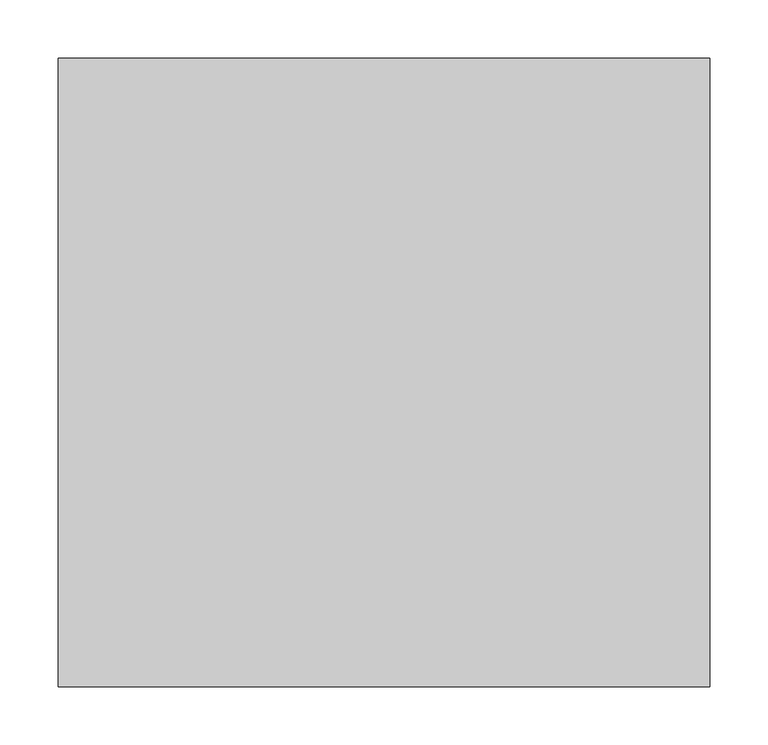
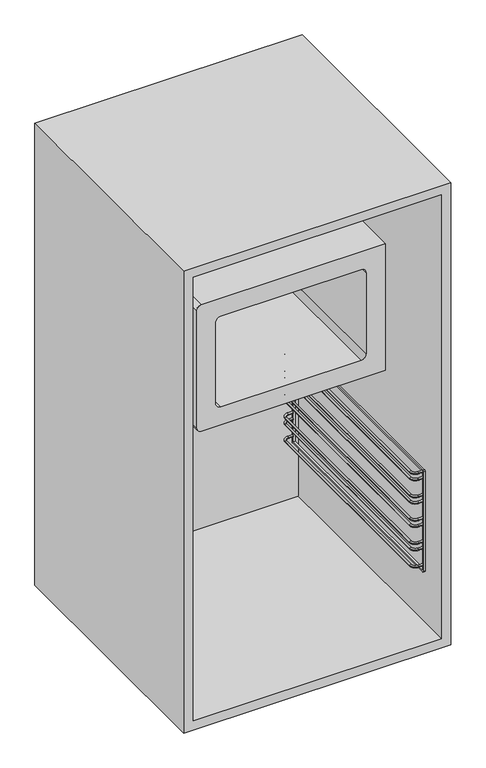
"""IFC4 building model written with IfcOpenShell, lengths in millimetres: proxy geometry, Horno_-_Microondas__Oven_-_Microwave_16796 : Horno_-_Microondas__Oven_-_Microwave_16796."""

from ifc_helpers import new_model, si_unit, point, frame, frame_2d, origin, place, context, project, spatial, polyline, circle_curve, ellipse_curve, trimmed, segment, composite_curve, outline, extrude, faceted_brep, source, transform, mapped, element, save
from ifc_brep_helpers import plane_surface, cylinder_surface, revolved_surface, advanced_brep


def specialty_equipment_980dbe76(model_context):
    return source(origin(), model_context, "Body", "SolidModel", [
        advanced_brep(
        [(236.0, 496.0039923, 175.9364959), (236.0, 500.0039923, 175.9364959), (217.9982631, 488.0039923, 175.9364959), (213.9982631, 488.0039923, 175.9364959), (213.9982631, 37.0604287, 175.9364959), (217.9982631, 37.0604287, 175.9364959), (236.0, 29.0604287, 175.9364959), (236.0, 25.0604287, 175.9364959), (225.9982631, 496.0039923, 175.9364959), (225.9982631, 500.0039923, 175.9364959), (225.9982631, 25.0604287, 175.9364959), (225.9982631, 29.0604287, 175.9364959)],
        [
            (0, 1, circle_curve(frame((236.0, 498.0039923, 175.9364959), z_axis=(1.0, 0.0, 0.0), x_axis=(0.0, 1.0, 0.0)), 2.0)),
            (1, 0, circle_curve(frame((236.0, 498.0039923, 175.9364959), z_axis=(1.0, 0.0, 0.0), x_axis=(0.0, 1.0, 0.0)), 2.0)),
            (2, 3, circle_curve(frame((215.9982631, 488.0039923, 175.9364959), z_axis=(0.0, -1.0, 0.0), x_axis=(-1.0, 0.0, 0.0)), 2.0)),
            (3, 4),
            (4, 5, circle_curve(frame((215.9982631, 37.0604287, 175.9364959), z_axis=(0.0, 1.0, 0.0), x_axis=(-1.0, 0.0, 0.0)), 2.0)),
            (5, 2),
            (3, 2, circle_curve(frame((215.9982631, 488.0039923, 175.9364959), z_axis=(0.0, -1.0, 0.0), x_axis=(-1.0, 0.0, 0.0)), 2.0)),
            (5, 4, circle_curve(frame((215.9982631, 37.0604287, 175.9364959), z_axis=(0.0, 1.0, 0.0), x_axis=(-1.0, 0.0, 0.0)), 2.0)),
            (6, 7, circle_curve(frame((236.0, 27.0604287, 175.9364959), z_axis=(1.0, 0.0, 0.0), x_axis=(0.0, -1.0, 0.0)), 2.0)),
            (7, 6, circle_curve(frame((236.0, 27.0604287, 175.9364959), z_axis=(1.0, 0.0, 0.0), x_axis=(0.0, -1.0, 0.0)), 2.0)),
            (0, 8),
            (8, 9, circle_curve(frame((225.9982631, 498.0039923, 175.9364959), z_axis=(1.0, 0.0, 0.0), x_axis=(0.0, 1.0, 0.0)), 2.0)),
            (9, 1),
            (9, 8, circle_curve(frame((225.9982631, 498.0039923, 175.9364959), z_axis=(1.0, 0.0, 0.0), x_axis=(0.0, 1.0, 0.0)), 2.0)),
            (3, 9, circle_curve(frame((225.9982631, 488.0039923, 175.9364959), z_axis=(0.0, 0.0, -1.0), x_axis=(0.0, 1.0, 0.0)), 12.0)),
            (8, 2, circle_curve(frame((225.9982631, 488.0039923, 175.9364959), z_axis=(0.0, 0.0, 1.0), x_axis=(0.0, 1.0, 0.0)), 8.0)),
            (10, 4, circle_curve(frame((225.9982631, 37.0604287, 175.9364959), z_axis=(0.0, 0.0, -1.0), x_axis=(-1.0, 0.0, 0.0)), 12.0)),
            (5, 11, circle_curve(frame((225.9982631, 37.0604287, 175.9364959), z_axis=(0.0, 0.0, 1.0), x_axis=(-1.0, 0.0, 0.0)), 8.0)),
            (11, 10, circle_curve(frame((225.9982631, 27.0604287, 175.9364959), z_axis=(-1.0, 0.0, 0.0), x_axis=(0.0, -1.0, 0.0)), 2.0)),
            (10, 11, circle_curve(frame((225.9982631, 27.0604287, 175.9364959), z_axis=(-1.0, 0.0, 0.0), x_axis=(0.0, -1.0, 0.0)), 2.0)),
            (11, 6),
            (7, 10),
        ],
        [
            plane_surface(frame((236.0, 498.0039923, 337.9364959), z_axis=(1.0, 0.0, 0.0), x_axis=(0.0, 0.0, 1.0))),
            cylinder_surface(frame((215.9982631, 488.0039923, 175.9364959), z_axis=(0.0, 1.0, 0.0), x_axis=(-1.0, 0.0, 0.0)), 2.0),
            plane_surface(frame((236.0, 27.0604287, 337.9364959), z_axis=(1.0, 0.0, 0.0), x_axis=(0.0, 0.0, 1.0))),
            cylinder_surface(frame((236.0, 498.0039923, 175.9364959), z_axis=(1.0, 0.0, 0.0), x_axis=(0.0, 1.0, 0.0)), 2.0),
            revolved_surface(trimmed(ellipse_curve(frame((225.9982631, 498.0039923, 175.9364959), z_axis=(1.0, 0.0, 0.0), x_axis=(0.0, 1.0, 0.0)), 2.0, 2.0), [point((225.9982631, 496.0039923, 175.9364959))], [point((225.9982631, 500.0039923, 175.9364959))], True, "CARTESIAN"), (225.9982631, 488.0039923, 337.9364959), (0.0, 0.0, 1.0)),
            revolved_surface(trimmed(ellipse_curve(frame((225.9982631, 498.0039923, 175.9364959), z_axis=(1.0, 0.0, 0.0), x_axis=(0.0, 1.0, 0.0)), 2.0, 2.0), [point((225.9982631, 500.0039923, 175.9364959))], [point((225.9982631, 496.0039923, 175.9364959))], True, "CARTESIAN"), (225.9982631, 488.0039923, 337.9364959), (0.0, 0.0, 1.0)),
            revolved_surface(trimmed(ellipse_curve(frame((215.9982631, 37.0604287, 175.9364959), z_axis=(0.0, 1.0, 0.0), x_axis=(-1.0, 0.0, 0.0)), 2.0, 2.0), [point((217.9982631, 37.0604287, 175.9364959))], [point((213.9982631, 37.0604287, 175.9364959))], True, "CARTESIAN"), (225.9982631, 37.0604287, 337.9364959), (0.0, 0.0, 1.0)),
            revolved_surface(trimmed(ellipse_curve(frame((215.9982631, 37.0604287, 175.9364959), z_axis=(0.0, 1.0, 0.0), x_axis=(-1.0, 0.0, 0.0)), 2.0, 2.0), [point((213.9982631, 37.0604287, 175.9364959))], [point((217.9982631, 37.0604287, 175.9364959))], True, "CARTESIAN"), (225.9982631, 37.0604287, 337.9364959), (0.0, 0.0, 1.0)),
            cylinder_surface(frame((225.9982631, 27.0604287, 175.9364959), z_axis=(-1.0, 0.0, 0.0), x_axis=(0.0, -1.0, 0.0)), 2.0),
        ],
        [
            (0, [[1, 2]]),
            (1, [[3, 4, 5, 6]]),
            (1, [[7, -6, 8, -4]]),
            (2, [[9, 10]]),
            (3, [[-1, 11, 12, 13]]),
            (3, [[-2, -13, 14, -11]]),
            (4, [[15, -12, 16, -7]]),
            (5, [[-16, -14, -15, -3]]),
            (6, [[17, -8, 18, 19]]),
            (7, [[-18, -5, -17, 20]]),
            (8, [[-19, 21, -10, 22]]),
            (8, [[-20, -22, -9, -21]]),
        ],
    ),
        advanced_brep(
        [(236.0, 496.0039923, 213.702372), (236.0, 500.0039923, 213.702372), (217.9982631, 488.0039923, 213.702372), (213.9982631, 488.0039923, 213.702372), (213.9982631, 37.0604287, 213.702372), (217.9982631, 37.0604287, 213.702372), (236.0, 29.0604287, 213.702372), (236.0, 25.0604287, 213.702372), (225.9982631, 496.0039923, 213.702372), (225.9982631, 500.0039923, 213.702372), (225.9982631, 25.0604287, 213.702372), (225.9982631, 29.0604287, 213.702372)],
        [
            (0, 1, circle_curve(frame((236.0, 498.0039923, 213.702372), z_axis=(1.0, 0.0, 0.0), x_axis=(0.0, 1.0, 0.0)), 2.0)),
            (1, 0, circle_curve(frame((236.0, 498.0039923, 213.702372), z_axis=(1.0, 0.0, 0.0), x_axis=(0.0, 1.0, 0.0)), 2.0)),
            (2, 3, circle_curve(frame((215.9982631, 488.0039923, 213.702372), z_axis=(0.0, -1.0, 0.0), x_axis=(-1.0, 0.0, 0.0)), 2.0)),
            (3, 4),
            (4, 5, circle_curve(frame((215.9982631, 37.0604287, 213.702372), z_axis=(0.0, 1.0, 0.0), x_axis=(-1.0, 0.0, 0.0)), 2.0)),
            (5, 2),
            (3, 2, circle_curve(frame((215.9982631, 488.0039923, 213.702372), z_axis=(0.0, -1.0, 0.0), x_axis=(-1.0, 0.0, 0.0)), 2.0)),
            (5, 4, circle_curve(frame((215.9982631, 37.0604287, 213.702372), z_axis=(0.0, 1.0, 0.0), x_axis=(-1.0, 0.0, 0.0)), 2.0)),
            (6, 7, circle_curve(frame((236.0, 27.0604287, 213.702372), z_axis=(1.0, 0.0, 0.0), x_axis=(0.0, -1.0, 0.0)), 2.0)),
            (7, 6, circle_curve(frame((236.0, 27.0604287, 213.702372), z_axis=(1.0, 0.0, 0.0), x_axis=(0.0, -1.0, 0.0)), 2.0)),
            (0, 8),
            (8, 9, circle_curve(frame((225.9982631, 498.0039923, 213.702372), z_axis=(1.0, 0.0, 0.0), x_axis=(0.0, 1.0, 0.0)), 2.0)),
            (9, 1),
            (9, 8, circle_curve(frame((225.9982631, 498.0039923, 213.702372), z_axis=(1.0, 0.0, 0.0), x_axis=(0.0, 1.0, 0.0)), 2.0)),
            (3, 9, circle_curve(frame((225.9982631, 488.0039923, 213.702372), z_axis=(0.0, 0.0, -1.0), x_axis=(0.0, 1.0, 0.0)), 12.0)),
            (8, 2, circle_curve(frame((225.9982631, 488.0039923, 213.702372), z_axis=(0.0, 0.0, 1.0), x_axis=(0.0, 1.0, 0.0)), 8.0)),
            (10, 4, circle_curve(frame((225.9982631, 37.0604287, 213.702372), z_axis=(0.0, 0.0, -1.0), x_axis=(-1.0, 0.0, 0.0)), 12.0)),
            (5, 11, circle_curve(frame((225.9982631, 37.0604287, 213.702372), z_axis=(0.0, 0.0, 1.0), x_axis=(-1.0, 0.0, 0.0)), 8.0)),
            (11, 10, circle_curve(frame((225.9982631, 27.0604287, 213.702372), z_axis=(-1.0, 0.0, 0.0), x_axis=(0.0, -1.0, 0.0)), 2.0)),
            (10, 11, circle_curve(frame((225.9982631, 27.0604287, 213.702372), z_axis=(-1.0, 0.0, 0.0), x_axis=(0.0, -1.0, 0.0)), 2.0)),
            (11, 6),
            (7, 10),
        ],
        [
            plane_surface(frame((236.0, 498.0039923, 375.702372), z_axis=(1.0, 0.0, 0.0), x_axis=(0.0, 0.0, 1.0))),
            cylinder_surface(frame((215.9982631, 488.0039923, 213.702372), z_axis=(0.0, 1.0, 0.0), x_axis=(-1.0, 0.0, 0.0)), 2.0),
            plane_surface(frame((236.0, 27.0604287, 375.702372), z_axis=(1.0, 0.0, 0.0), x_axis=(0.0, 0.0, 1.0))),
            cylinder_surface(frame((236.0, 498.0039923, 213.702372), z_axis=(1.0, 0.0, 0.0), x_axis=(0.0, 1.0, 0.0)), 2.0),
            revolved_surface(trimmed(ellipse_curve(frame((225.9982631, 498.0039923, 213.702372), z_axis=(1.0, 0.0, 0.0), x_axis=(0.0, 1.0, 0.0)), 2.0, 2.0), [point((225.9982631, 496.0039923, 213.702372))], [point((225.9982631, 500.0039923, 213.702372))], True, "CARTESIAN"), (225.9982631, 488.0039923, 375.702372), (0.0, 0.0, 1.0)),
            revolved_surface(trimmed(ellipse_curve(frame((225.9982631, 498.0039923, 213.702372), z_axis=(1.0, 0.0, 0.0), x_axis=(0.0, 1.0, 0.0)), 2.0, 2.0), [point((225.9982631, 500.0039923, 213.702372))], [point((225.9982631, 496.0039923, 213.702372))], True, "CARTESIAN"), (225.9982631, 488.0039923, 375.702372), (0.0, 0.0, 1.0)),
            revolved_surface(trimmed(ellipse_curve(frame((215.9982631, 37.0604287, 213.702372), z_axis=(0.0, 1.0, 0.0), x_axis=(-1.0, 0.0, 0.0)), 2.0, 2.0), [point((217.9982631, 37.0604287, 213.702372))], [point((213.9982631, 37.0604287, 213.702372))], True, "CARTESIAN"), (225.9982631, 37.0604287, 375.702372), (0.0, 0.0, 1.0)),
            revolved_surface(trimmed(ellipse_curve(frame((215.9982631, 37.0604287, 213.702372), z_axis=(0.0, 1.0, 0.0), x_axis=(-1.0, 0.0, 0.0)), 2.0, 2.0), [point((213.9982631, 37.0604287, 213.702372))], [point((217.9982631, 37.0604287, 213.702372))], True, "CARTESIAN"), (225.9982631, 37.0604287, 375.702372), (0.0, 0.0, 1.0)),
            cylinder_surface(frame((225.9982631, 27.0604287, 213.702372), z_axis=(-1.0, 0.0, 0.0), x_axis=(0.0, -1.0, 0.0)), 2.0),
        ],
        [
            (0, [[1, 2]]),
            (1, [[3, 4, 5, 6]]),
            (1, [[7, -6, 8, -4]]),
            (2, [[9, 10]]),
            (3, [[-1, 11, 12, 13]]),
            (3, [[-2, -13, 14, -11]]),
            (4, [[15, -12, 16, -7]]),
            (5, [[-16, -14, -15, -3]]),
            (6, [[17, -8, 18, 19]]),
            (7, [[-18, -5, -17, 20]]),
            (8, [[-19, 21, -10, 22]]),
            (8, [[-20, -22, -9, -21]]),
        ],
    ),
        advanced_brep(
        [(236.0, 496.0039923, 227.702372), (236.0, 500.0039923, 227.702372), (217.9982631, 488.0039923, 227.702372), (213.9982631, 488.0039923, 227.702372), (213.9982631, 37.0604287, 227.702372), (217.9982631, 37.0604287, 227.702372), (236.0, 29.0604287, 227.702372), (236.0, 25.0604287, 227.702372), (225.9982631, 496.0039923, 227.702372), (225.9982631, 500.0039923, 227.702372), (225.9982631, 25.0604287, 227.702372), (225.9982631, 29.0604287, 227.702372)],
        [
            (0, 1, circle_curve(frame((236.0, 498.0039923, 227.702372), z_axis=(1.0, 0.0, 0.0), x_axis=(0.0, 1.0, 0.0)), 2.0)),
            (1, 0, circle_curve(frame((236.0, 498.0039923, 227.702372), z_axis=(1.0, 0.0, 0.0), x_axis=(0.0, 1.0, 0.0)), 2.0)),
            (2, 3, circle_curve(frame((215.9982631, 488.0039923, 227.702372), z_axis=(0.0, -1.0, 0.0), x_axis=(-1.0, 0.0, 0.0)), 2.0)),
            (3, 4),
            (4, 5, circle_curve(frame((215.9982631, 37.0604287, 227.702372), z_axis=(0.0, 1.0, 0.0), x_axis=(-1.0, 0.0, 0.0)), 2.0)),
            (5, 2),
            (3, 2, circle_curve(frame((215.9982631, 488.0039923, 227.702372), z_axis=(0.0, -1.0, 0.0), x_axis=(-1.0, 0.0, 0.0)), 2.0)),
            (5, 4, circle_curve(frame((215.9982631, 37.0604287, 227.702372), z_axis=(0.0, 1.0, 0.0), x_axis=(-1.0, 0.0, 0.0)), 2.0)),
            (6, 7, circle_curve(frame((236.0, 27.0604287, 227.702372), z_axis=(1.0, 0.0, 0.0), x_axis=(0.0, -1.0, 0.0)), 2.0)),
            (7, 6, circle_curve(frame((236.0, 27.0604287, 227.702372), z_axis=(1.0, 0.0, 0.0), x_axis=(0.0, -1.0, 0.0)), 2.0)),
            (0, 8),
            (8, 9, circle_curve(frame((225.9982631, 498.0039923, 227.702372), z_axis=(1.0, 0.0, 0.0), x_axis=(0.0, 1.0, 0.0)), 2.0)),
            (9, 1),
            (9, 8, circle_curve(frame((225.9982631, 498.0039923, 227.702372), z_axis=(1.0, 0.0, 0.0), x_axis=(0.0, 1.0, 0.0)), 2.0)),
            (3, 9, circle_curve(frame((225.9982631, 488.0039923, 227.702372), z_axis=(0.0, 0.0, -1.0), x_axis=(0.0, 1.0, 0.0)), 12.0)),
            (8, 2, circle_curve(frame((225.9982631, 488.0039923, 227.702372), z_axis=(0.0, 0.0, 1.0), x_axis=(0.0, 1.0, 0.0)), 8.0)),
            (10, 4, circle_curve(frame((225.9982631, 37.0604287, 227.702372), z_axis=(0.0, 0.0, -1.0), x_axis=(-1.0, 0.0, 0.0)), 12.0)),
            (5, 11, circle_curve(frame((225.9982631, 37.0604287, 227.702372), z_axis=(0.0, 0.0, 1.0), x_axis=(-1.0, 0.0, 0.0)), 8.0)),
            (11, 10, circle_curve(frame((225.9982631, 27.0604287, 227.702372), z_axis=(-1.0, 0.0, 0.0), x_axis=(0.0, -1.0, 0.0)), 2.0)),
            (10, 11, circle_curve(frame((225.9982631, 27.0604287, 227.702372), z_axis=(-1.0, 0.0, 0.0), x_axis=(0.0, -1.0, 0.0)), 2.0)),
            (11, 6),
            (7, 10),
        ],
        [
            plane_surface(frame((236.0, 498.0039923, 389.702372), z_axis=(1.0, 0.0, 0.0), x_axis=(0.0, 0.0, 1.0))),
            cylinder_surface(frame((215.9982631, 488.0039923, 227.702372), z_axis=(0.0, 1.0, 0.0), x_axis=(-1.0, 0.0, 0.0)), 2.0),
            plane_surface(frame((236.0, 27.0604287, 389.702372), z_axis=(1.0, 0.0, 0.0), x_axis=(0.0, 0.0, 1.0))),
            cylinder_surface(frame((236.0, 498.0039923, 227.702372), z_axis=(1.0, 0.0, 0.0), x_axis=(0.0, 1.0, 0.0)), 2.0),
            revolved_surface(trimmed(ellipse_curve(frame((225.9982631, 498.0039923, 227.702372), z_axis=(1.0, 0.0, 0.0), x_axis=(0.0, 1.0, 0.0)), 2.0, 2.0), [point((225.9982631, 496.0039923, 227.702372))], [point((225.9982631, 500.0039923, 227.702372))], True, "CARTESIAN"), (225.9982631, 488.0039923, 389.702372), (0.0, 0.0, 1.0)),
            revolved_surface(trimmed(ellipse_curve(frame((225.9982631, 498.0039923, 227.702372), z_axis=(1.0, 0.0, 0.0), x_axis=(0.0, 1.0, 0.0)), 2.0, 2.0), [point((225.9982631, 500.0039923, 227.702372))], [point((225.9982631, 496.0039923, 227.702372))], True, "CARTESIAN"), (225.9982631, 488.0039923, 389.702372), (0.0, 0.0, 1.0)),
            revolved_surface(trimmed(ellipse_curve(frame((215.9982631, 37.0604287, 227.702372), z_axis=(0.0, 1.0, 0.0), x_axis=(-1.0, 0.0, 0.0)), 2.0, 2.0), [point((217.9982631, 37.0604287, 227.702372))], [point((213.9982631, 37.0604287, 227.702372))], True, "CARTESIAN"), (225.9982631, 37.0604287, 389.702372), (0.0, 0.0, 1.0)),
            revolved_surface(trimmed(ellipse_curve(frame((215.9982631, 37.0604287, 227.702372), z_axis=(0.0, 1.0, 0.0), x_axis=(-1.0, 0.0, 0.0)), 2.0, 2.0), [point((213.9982631, 37.0604287, 227.702372))], [point((217.9982631, 37.0604287, 227.702372))], True, "CARTESIAN"), (225.9982631, 37.0604287, 389.702372), (0.0, 0.0, 1.0)),
            cylinder_surface(frame((225.9982631, 27.0604287, 227.702372), z_axis=(-1.0, 0.0, 0.0), x_axis=(0.0, -1.0, 0.0)), 2.0),
        ],
        [
            (0, [[1, 2]]),
            (1, [[3, 4, 5, 6]]),
            (1, [[7, -6, 8, -4]]),
            (2, [[9, 10]]),
            (3, [[-1, 11, 12, 13]]),
            (3, [[-2, -13, 14, -11]]),
            (4, [[15, -12, 16, -7]]),
            (5, [[-16, -14, -15, -3]]),
            (6, [[17, -8, 18, 19]]),
            (7, [[-18, -5, -17, 20]]),
            (8, [[-19, 21, -10, 22]]),
            (8, [[-20, -22, -9, -21]]),
        ],
    ),
        advanced_brep(
        [(236.0, 496.0039923, 265.468248), (236.0, 500.0039923, 265.468248), (217.9982631, 488.0039923, 265.468248), (213.9982631, 488.0039923, 265.468248), (213.9982631, 37.0604287, 265.468248), (217.9982631, 37.0604287, 265.468248), (236.0, 29.0604287, 265.468248), (236.0, 25.0604287, 265.468248), (225.9982631, 496.0039923, 265.468248), (225.9982631, 500.0039923, 265.468248), (225.9982631, 25.0604287, 265.468248), (225.9982631, 29.0604287, 265.468248)],
        [
            (0, 1, circle_curve(frame((236.0, 498.0039923, 265.468248), z_axis=(1.0, 0.0, 0.0), x_axis=(0.0, 1.0, 0.0)), 2.0)),
            (1, 0, circle_curve(frame((236.0, 498.0039923, 265.468248), z_axis=(1.0, 0.0, 0.0), x_axis=(0.0, 1.0, 0.0)), 2.0)),
            (2, 3, circle_curve(frame((215.9982631, 488.0039923, 265.468248), z_axis=(0.0, -1.0, 0.0), x_axis=(-1.0, 0.0, 0.0)), 2.0)),
            (3, 4),
            (4, 5, circle_curve(frame((215.9982631, 37.0604287, 265.468248), z_axis=(0.0, 1.0, 0.0), x_axis=(-1.0, 0.0, 0.0)), 2.0)),
            (5, 2),
            (3, 2, circle_curve(frame((215.9982631, 488.0039923, 265.468248), z_axis=(0.0, -1.0, 0.0), x_axis=(-1.0, 0.0, 0.0)), 2.0)),
            (5, 4, circle_curve(frame((215.9982631, 37.0604287, 265.468248), z_axis=(0.0, 1.0, 0.0), x_axis=(-1.0, 0.0, 0.0)), 2.0)),
            (6, 7, circle_curve(frame((236.0, 27.0604287, 265.468248), z_axis=(1.0, 0.0, 0.0), x_axis=(0.0, -1.0, 0.0)), 2.0)),
            (7, 6, circle_curve(frame((236.0, 27.0604287, 265.468248), z_axis=(1.0, 0.0, 0.0), x_axis=(0.0, -1.0, 0.0)), 2.0)),
            (0, 8),
            (8, 9, circle_curve(frame((225.9982631, 498.0039923, 265.468248), z_axis=(1.0, 0.0, 0.0), x_axis=(0.0, 1.0, 0.0)), 2.0)),
            (9, 1),
            (9, 8, circle_curve(frame((225.9982631, 498.0039923, 265.468248), z_axis=(1.0, 0.0, 0.0), x_axis=(0.0, 1.0, 0.0)), 2.0)),
            (3, 9, circle_curve(frame((225.9982631, 488.0039923, 265.468248), z_axis=(0.0, 0.0, -1.0), x_axis=(0.0, 1.0, 0.0)), 12.0)),
            (8, 2, circle_curve(frame((225.9982631, 488.0039923, 265.468248), z_axis=(0.0, 0.0, 1.0), x_axis=(0.0, 1.0, 0.0)), 8.0)),
            (10, 4, circle_curve(frame((225.9982631, 37.0604287, 265.468248), z_axis=(0.0, 0.0, -1.0), x_axis=(-1.0, 0.0, 0.0)), 12.0)),
            (5, 11, circle_curve(frame((225.9982631, 37.0604287, 265.468248), z_axis=(0.0, 0.0, 1.0), x_axis=(-1.0, 0.0, 0.0)), 8.0)),
            (11, 10, circle_curve(frame((225.9982631, 27.0604287, 265.468248), z_axis=(-1.0, 0.0, 0.0), x_axis=(0.0, -1.0, 0.0)), 2.0)),
            (10, 11, circle_curve(frame((225.9982631, 27.0604287, 265.468248), z_axis=(-1.0, 0.0, 0.0), x_axis=(0.0, -1.0, 0.0)), 2.0)),
            (11, 6),
            (7, 10),
        ],
        [
            plane_surface(frame((236.0, 498.0039923, 427.468248), z_axis=(1.0, 0.0, 0.0), x_axis=(0.0, 0.0, 1.0))),
            cylinder_surface(frame((215.9982631, 488.0039923, 265.468248), z_axis=(0.0, 1.0, 0.0), x_axis=(-1.0, 0.0, 0.0)), 2.0),
            plane_surface(frame((236.0, 27.0604287, 427.468248), z_axis=(1.0, 0.0, 0.0), x_axis=(0.0, 0.0, 1.0))),
            cylinder_surface(frame((236.0, 498.0039923, 265.468248), z_axis=(1.0, 0.0, 0.0), x_axis=(0.0, 1.0, 0.0)), 2.0),
            revolved_surface(trimmed(ellipse_curve(frame((225.9982631, 498.0039923, 265.468248), z_axis=(1.0, 0.0, 0.0), x_axis=(0.0, 1.0, 0.0)), 2.0, 2.0), [point((225.9982631, 496.0039923, 265.468248))], [point((225.9982631, 500.0039923, 265.468248))], True, "CARTESIAN"), (225.9982631, 488.0039923, 427.468248), (0.0, 0.0, 1.0)),
            revolved_surface(trimmed(ellipse_curve(frame((225.9982631, 498.0039923, 265.468248), z_axis=(1.0, 0.0, 0.0), x_axis=(0.0, 1.0, 0.0)), 2.0, 2.0), [point((225.9982631, 500.0039923, 265.468248))], [point((225.9982631, 496.0039923, 265.468248))], True, "CARTESIAN"), (225.9982631, 488.0039923, 427.468248), (0.0, 0.0, 1.0)),
            revolved_surface(trimmed(ellipse_curve(frame((215.9982631, 37.0604287, 265.468248), z_axis=(0.0, 1.0, 0.0), x_axis=(-1.0, 0.0, 0.0)), 2.0, 2.0), [point((217.9982631, 37.0604287, 265.468248))], [point((213.9982631, 37.0604287, 265.468248))], True, "CARTESIAN"), (225.9982631, 37.0604287, 427.468248), (0.0, 0.0, 1.0)),
            revolved_surface(trimmed(ellipse_curve(frame((215.9982631, 37.0604287, 265.468248), z_axis=(0.0, 1.0, 0.0), x_axis=(-1.0, 0.0, 0.0)), 2.0, 2.0), [point((213.9982631, 37.0604287, 265.468248))], [point((217.9982631, 37.0604287, 265.468248))], True, "CARTESIAN"), (225.9982631, 37.0604287, 427.468248), (0.0, 0.0, 1.0)),
            cylinder_surface(frame((225.9982631, 27.0604287, 265.468248), z_axis=(-1.0, 0.0, 0.0), x_axis=(0.0, -1.0, 0.0)), 2.0),
        ],
        [
            (0, [[1, 2]]),
            (1, [[3, 4, 5, 6]]),
            (1, [[7, -6, 8, -4]]),
            (2, [[9, 10]]),
            (3, [[-1, 11, 12, 13]]),
            (3, [[-2, -13, 14, -11]]),
            (4, [[15, -12, 16, -7]]),
            (5, [[-16, -14, -15, -3]]),
            (6, [[17, -8, 18, 19]]),
            (7, [[-18, -5, -17, 20]]),
            (8, [[-19, 21, -10, 22]]),
            (8, [[-20, -22, -9, -21]]),
        ],
    ),
        advanced_brep(
        [(236.0, 496.0039923, 279.468248), (236.0, 500.0039923, 279.468248), (217.9982631, 488.0039923, 279.468248), (213.9982631, 488.0039923, 279.468248), (213.9982631, 37.0604287, 279.468248), (217.9982631, 37.0604287, 279.468248), (236.0, 29.0604287, 279.468248), (236.0, 25.0604287, 279.468248), (225.9982631, 496.0039923, 279.468248), (225.9982631, 500.0039923, 279.468248), (225.9982631, 25.0604287, 279.468248), (225.9982631, 29.0604287, 279.468248)],
        [
            (0, 1, circle_curve(frame((236.0, 498.0039923, 279.468248), z_axis=(1.0, 0.0, 0.0), x_axis=(0.0, 1.0, 0.0)), 2.0)),
            (1, 0, circle_curve(frame((236.0, 498.0039923, 279.468248), z_axis=(1.0, 0.0, 0.0), x_axis=(0.0, 1.0, 0.0)), 2.0)),
            (2, 3, circle_curve(frame((215.9982631, 488.0039923, 279.468248), z_axis=(0.0, -1.0, 0.0), x_axis=(-1.0, 0.0, 0.0)), 2.0)),
            (3, 4),
            (4, 5, circle_curve(frame((215.9982631, 37.0604287, 279.468248), z_axis=(0.0, 1.0, 0.0), x_axis=(-1.0, 0.0, 0.0)), 2.0)),
            (5, 2),
            (3, 2, circle_curve(frame((215.9982631, 488.0039923, 279.468248), z_axis=(0.0, -1.0, 0.0), x_axis=(-1.0, 0.0, 0.0)), 2.0)),
            (5, 4, circle_curve(frame((215.9982631, 37.0604287, 279.468248), z_axis=(0.0, 1.0, 0.0), x_axis=(-1.0, 0.0, 0.0)), 2.0)),
            (6, 7, circle_curve(frame((236.0, 27.0604287, 279.468248), z_axis=(1.0, 0.0, 0.0), x_axis=(0.0, -1.0, 0.0)), 2.0)),
            (7, 6, circle_curve(frame((236.0, 27.0604287, 279.468248), z_axis=(1.0, 0.0, 0.0), x_axis=(0.0, -1.0, 0.0)), 2.0)),
            (0, 8),
            (8, 9, circle_curve(frame((225.9982631, 498.0039923, 279.468248), z_axis=(1.0, 0.0, 0.0), x_axis=(0.0, 1.0, 0.0)), 2.0)),
            (9, 1),
            (9, 8, circle_curve(frame((225.9982631, 498.0039923, 279.468248), z_axis=(1.0, 0.0, 0.0), x_axis=(0.0, 1.0, 0.0)), 2.0)),
            (3, 9, circle_curve(frame((225.9982631, 488.0039923, 279.468248), z_axis=(0.0, 0.0, -1.0), x_axis=(0.0, 1.0, 0.0)), 12.0)),
            (8, 2, circle_curve(frame((225.9982631, 488.0039923, 279.468248), z_axis=(0.0, 0.0, 1.0), x_axis=(0.0, 1.0, 0.0)), 8.0)),
            (10, 4, circle_curve(frame((225.9982631, 37.0604287, 279.468248), z_axis=(0.0, 0.0, -1.0), x_axis=(-1.0, 0.0, 0.0)), 12.0)),
            (5, 11, circle_curve(frame((225.9982631, 37.0604287, 279.468248), z_axis=(0.0, 0.0, 1.0), x_axis=(-1.0, 0.0, 0.0)), 8.0)),
            (11, 10, circle_curve(frame((225.9982631, 27.0604287, 279.468248), z_axis=(-1.0, 0.0, 0.0), x_axis=(0.0, -1.0, 0.0)), 2.0)),
            (10, 11, circle_curve(frame((225.9982631, 27.0604287, 279.468248), z_axis=(-1.0, 0.0, 0.0), x_axis=(0.0, -1.0, 0.0)), 2.0)),
            (11, 6),
            (7, 10),
        ],
        [
            plane_surface(frame((236.0, 498.0039923, 441.468248), z_axis=(1.0, 0.0, 0.0), x_axis=(0.0, 0.0, 1.0))),
            cylinder_surface(frame((215.9982631, 488.0039923, 279.468248), z_axis=(0.0, 1.0, 0.0), x_axis=(-1.0, 0.0, 0.0)), 2.0),
            plane_surface(frame((236.0, 27.0604287, 441.468248), z_axis=(1.0, 0.0, 0.0), x_axis=(0.0, 0.0, 1.0))),
            cylinder_surface(frame((236.0, 498.0039923, 279.468248), z_axis=(1.0, 0.0, 0.0), x_axis=(0.0, 1.0, 0.0)), 2.0),
            revolved_surface(trimmed(ellipse_curve(frame((225.9982631, 498.0039923, 279.468248), z_axis=(1.0, 0.0, 0.0), x_axis=(0.0, 1.0, 0.0)), 2.0, 2.0), [point((225.9982631, 496.0039923, 279.468248))], [point((225.9982631, 500.0039923, 279.468248))], True, "CARTESIAN"), (225.9982631, 488.0039923, 441.468248), (0.0, 0.0, 1.0)),
            revolved_surface(trimmed(ellipse_curve(frame((225.9982631, 498.0039923, 279.468248), z_axis=(1.0, 0.0, 0.0), x_axis=(0.0, 1.0, 0.0)), 2.0, 2.0), [point((225.9982631, 500.0039923, 279.468248))], [point((225.9982631, 496.0039923, 279.468248))], True, "CARTESIAN"), (225.9982631, 488.0039923, 441.468248), (0.0, 0.0, 1.0)),
            revolved_surface(trimmed(ellipse_curve(frame((215.9982631, 37.0604287, 279.468248), z_axis=(0.0, 1.0, 0.0), x_axis=(-1.0, 0.0, 0.0)), 2.0, 2.0), [point((217.9982631, 37.0604287, 279.468248))], [point((213.9982631, 37.0604287, 279.468248))], True, "CARTESIAN"), (225.9982631, 37.0604287, 441.468248), (0.0, 0.0, 1.0)),
            revolved_surface(trimmed(ellipse_curve(frame((215.9982631, 37.0604287, 279.468248), z_axis=(0.0, 1.0, 0.0), x_axis=(-1.0, 0.0, 0.0)), 2.0, 2.0), [point((213.9982631, 37.0604287, 279.468248))], [point((217.9982631, 37.0604287, 279.468248))], True, "CARTESIAN"), (225.9982631, 37.0604287, 441.468248), (0.0, 0.0, 1.0)),
            cylinder_surface(frame((225.9982631, 27.0604287, 279.468248), z_axis=(-1.0, 0.0, 0.0), x_axis=(0.0, -1.0, 0.0)), 2.0),
        ],
        [
            (0, [[1, 2]]),
            (1, [[3, 4, 5, 6]]),
            (1, [[7, -6, 8, -4]]),
            (2, [[9, 10]]),
            (3, [[-1, 11, 12, 13]]),
            (3, [[-2, -13, 14, -11]]),
            (4, [[15, -12, 16, -7]]),
            (5, [[-16, -14, -15, -3]]),
            (6, [[17, -8, 18, 19]]),
            (7, [[-18, -5, -17, 20]]),
            (8, [[-19, 21, -10, 22]]),
            (8, [[-20, -22, -9, -21]]),
        ],
    ),
        advanced_brep(
        [(236.0, 496.0039923, 317.234124), (236.0, 500.0039923, 317.234124), (217.9982631, 488.0039923, 317.234124), (213.9982631, 488.0039923, 317.234124), (213.9982631, 37.0604287, 317.234124), (217.9982631, 37.0604287, 317.234124), (236.0, 29.0604287, 317.234124), (236.0, 25.0604287, 317.234124), (225.9982631, 496.0039923, 317.234124), (225.9982631, 500.0039923, 317.234124), (225.9982631, 25.0604287, 317.234124), (225.9982631, 29.0604287, 317.234124)],
        [
            (0, 1, circle_curve(frame((236.0, 498.0039923, 317.234124), z_axis=(1.0, 0.0, 0.0), x_axis=(0.0, 1.0, 0.0)), 2.0)),
            (1, 0, circle_curve(frame((236.0, 498.0039923, 317.234124), z_axis=(1.0, 0.0, 0.0), x_axis=(0.0, 1.0, 0.0)), 2.0)),
            (2, 3, circle_curve(frame((215.9982631, 488.0039923, 317.234124), z_axis=(0.0, -1.0, 0.0), x_axis=(-1.0, 0.0, 0.0)), 2.0)),
            (3, 4),
            (4, 5, circle_curve(frame((215.9982631, 37.0604287, 317.234124), z_axis=(0.0, 1.0, 0.0), x_axis=(-1.0, 0.0, 0.0)), 2.0)),
            (5, 2),
            (3, 2, circle_curve(frame((215.9982631, 488.0039923, 317.234124), z_axis=(0.0, -1.0, 0.0), x_axis=(-1.0, 0.0, 0.0)), 2.0)),
            (5, 4, circle_curve(frame((215.9982631, 37.0604287, 317.234124), z_axis=(0.0, 1.0, 0.0), x_axis=(-1.0, 0.0, 0.0)), 2.0)),
            (6, 7, circle_curve(frame((236.0, 27.0604287, 317.234124), z_axis=(1.0, 0.0, 0.0), x_axis=(0.0, -1.0, 0.0)), 2.0)),
            (7, 6, circle_curve(frame((236.0, 27.0604287, 317.234124), z_axis=(1.0, 0.0, 0.0), x_axis=(0.0, -1.0, 0.0)), 2.0)),
            (0, 8),
            (8, 9, circle_curve(frame((225.9982631, 498.0039923, 317.234124), z_axis=(1.0, 0.0, 0.0), x_axis=(0.0, 1.0, 0.0)), 2.0)),
            (9, 1),
            (9, 8, circle_curve(frame((225.9982631, 498.0039923, 317.234124), z_axis=(1.0, 0.0, 0.0), x_axis=(0.0, 1.0, 0.0)), 2.0)),
            (3, 9, circle_curve(frame((225.9982631, 488.0039923, 317.234124), z_axis=(0.0, 0.0, -1.0), x_axis=(0.0, 1.0, 0.0)), 12.0)),
            (8, 2, circle_curve(frame((225.9982631, 488.0039923, 317.234124), z_axis=(0.0, 0.0, 1.0), x_axis=(0.0, 1.0, 0.0)), 8.0)),
            (10, 4, circle_curve(frame((225.9982631, 37.0604287, 317.234124), z_axis=(0.0, 0.0, -1.0), x_axis=(-1.0, 0.0, 0.0)), 12.0)),
            (5, 11, circle_curve(frame((225.9982631, 37.0604287, 317.234124), z_axis=(0.0, 0.0, 1.0), x_axis=(-1.0, 0.0, 0.0)), 8.0)),
            (11, 10, circle_curve(frame((225.9982631, 27.0604287, 317.234124), z_axis=(-1.0, 0.0, 0.0), x_axis=(0.0, -1.0, 0.0)), 2.0)),
            (10, 11, circle_curve(frame((225.9982631, 27.0604287, 317.234124), z_axis=(-1.0, 0.0, 0.0), x_axis=(0.0, -1.0, 0.0)), 2.0)),
            (11, 6),
            (7, 10),
        ],
        [
            plane_surface(frame((236.0, 498.0039923, 479.234124), z_axis=(1.0, 0.0, 0.0), x_axis=(0.0, 0.0, 1.0))),
            cylinder_surface(frame((215.9982631, 488.0039923, 317.234124), z_axis=(0.0, 1.0, 0.0), x_axis=(-1.0, 0.0, 0.0)), 2.0),
            plane_surface(frame((236.0, 27.0604287, 479.234124), z_axis=(1.0, 0.0, 0.0), x_axis=(0.0, 0.0, 1.0))),
            cylinder_surface(frame((236.0, 498.0039923, 317.234124), z_axis=(1.0, 0.0, 0.0), x_axis=(0.0, 1.0, 0.0)), 2.0),
            revolved_surface(trimmed(ellipse_curve(frame((225.9982631, 498.0039923, 317.234124), z_axis=(1.0, 0.0, 0.0), x_axis=(0.0, 1.0, 0.0)), 2.0, 2.0), [point((225.9982631, 496.0039923, 317.234124))], [point((225.9982631, 500.0039923, 317.234124))], True, "CARTESIAN"), (225.9982631, 488.0039923, 479.234124), (0.0, 0.0, 1.0)),
            revolved_surface(trimmed(ellipse_curve(frame((225.9982631, 498.0039923, 317.234124), z_axis=(1.0, 0.0, 0.0), x_axis=(0.0, 1.0, 0.0)), 2.0, 2.0), [point((225.9982631, 500.0039923, 317.234124))], [point((225.9982631, 496.0039923, 317.234124))], True, "CARTESIAN"), (225.9982631, 488.0039923, 479.234124), (0.0, 0.0, 1.0)),
            revolved_surface(trimmed(ellipse_curve(frame((215.9982631, 37.0604287, 317.234124), z_axis=(0.0, 1.0, 0.0), x_axis=(-1.0, 0.0, 0.0)), 2.0, 2.0), [point((217.9982631, 37.0604287, 317.234124))], [point((213.9982631, 37.0604287, 317.234124))], True, "CARTESIAN"), (225.9982631, 37.0604287, 479.234124), (0.0, 0.0, 1.0)),
            revolved_surface(trimmed(ellipse_curve(frame((215.9982631, 37.0604287, 317.234124), z_axis=(0.0, 1.0, 0.0), x_axis=(-1.0, 0.0, 0.0)), 2.0, 2.0), [point((213.9982631, 37.0604287, 317.234124))], [point((217.9982631, 37.0604287, 317.234124))], True, "CARTESIAN"), (225.9982631, 37.0604287, 479.234124), (0.0, 0.0, 1.0)),
            cylinder_surface(frame((225.9982631, 27.0604287, 317.234124), z_axis=(-1.0, 0.0, 0.0), x_axis=(0.0, -1.0, 0.0)), 2.0),
        ],
        [
            (0, [[1, 2]]),
            (1, [[3, 4, 5, 6]]),
            (1, [[7, -6, 8, -4]]),
            (2, [[9, 10]]),
            (3, [[-1, 11, 12, 13]]),
            (3, [[-2, -13, 14, -11]]),
            (4, [[15, -12, 16, -7]]),
            (5, [[-16, -14, -15, -3]]),
            (6, [[17, -8, 18, 19]]),
            (7, [[-18, -5, -17, 20]]),
            (8, [[-19, 21, -10, 22]]),
            (8, [[-20, -22, -9, -21]]),
        ],
    ),
        advanced_brep(
        [(236.0, 496.0039923, 331.234124), (236.0, 500.0039923, 331.234124), (217.9982631, 488.0039923, 331.234124), (213.9982631, 488.0039923, 331.234124), (213.9982631, 37.0604287, 331.234124), (217.9982631, 37.0604287, 331.234124), (236.0, 29.0604287, 331.234124), (236.0, 25.0604287, 331.234124), (225.9982631, 496.0039923, 331.234124), (225.9982631, 500.0039923, 331.234124), (225.9982631, 25.0604287, 331.234124), (225.9982631, 29.0604287, 331.234124)],
        [
            (0, 1, circle_curve(frame((236.0, 498.0039923, 331.234124), z_axis=(1.0, 0.0, 0.0), x_axis=(0.0, 1.0, 0.0)), 2.0)),
            (1, 0, circle_curve(frame((236.0, 498.0039923, 331.234124), z_axis=(1.0, 0.0, 0.0), x_axis=(0.0, 1.0, 0.0)), 2.0)),
            (2, 3, circle_curve(frame((215.9982631, 488.0039923, 331.234124), z_axis=(0.0, -1.0, 0.0), x_axis=(-1.0, 0.0, 0.0)), 2.0)),
            (3, 4),
            (4, 5, circle_curve(frame((215.9982631, 37.0604287, 331.234124), z_axis=(0.0, 1.0, 0.0), x_axis=(-1.0, 0.0, 0.0)), 2.0)),
            (5, 2),
            (3, 2, circle_curve(frame((215.9982631, 488.0039923, 331.234124), z_axis=(0.0, -1.0, 0.0), x_axis=(-1.0, 0.0, 0.0)), 2.0)),
            (5, 4, circle_curve(frame((215.9982631, 37.0604287, 331.234124), z_axis=(0.0, 1.0, 0.0), x_axis=(-1.0, 0.0, 0.0)), 2.0)),
            (6, 7, circle_curve(frame((236.0, 27.0604287, 331.234124), z_axis=(1.0, 0.0, 0.0), x_axis=(0.0, -1.0, 0.0)), 2.0)),
            (7, 6, circle_curve(frame((236.0, 27.0604287, 331.234124), z_axis=(1.0, 0.0, 0.0), x_axis=(0.0, -1.0, 0.0)), 2.0)),
            (0, 8),
            (8, 9, circle_curve(frame((225.9982631, 498.0039923, 331.234124), z_axis=(1.0, 0.0, 0.0), x_axis=(0.0, 1.0, 0.0)), 2.0)),
            (9, 1),
            (9, 8, circle_curve(frame((225.9982631, 498.0039923, 331.234124), z_axis=(1.0, 0.0, 0.0), x_axis=(0.0, 1.0, 0.0)), 2.0)),
            (3, 9, circle_curve(frame((225.9982631, 488.0039923, 331.234124), z_axis=(0.0, 0.0, -1.0), x_axis=(0.0, 1.0, 0.0)), 12.0)),
            (8, 2, circle_curve(frame((225.9982631, 488.0039923, 331.234124), z_axis=(0.0, 0.0, 1.0), x_axis=(0.0, 1.0, 0.0)), 8.0)),
            (10, 4, circle_curve(frame((225.9982631, 37.0604287, 331.234124), z_axis=(0.0, 0.0, -1.0), x_axis=(-1.0, 0.0, 0.0)), 12.0)),
            (5, 11, circle_curve(frame((225.9982631, 37.0604287, 331.234124), z_axis=(0.0, 0.0, 1.0), x_axis=(-1.0, 0.0, 0.0)), 8.0)),
            (11, 10, circle_curve(frame((225.9982631, 27.0604287, 331.234124), z_axis=(-1.0, 0.0, 0.0), x_axis=(0.0, -1.0, 0.0)), 2.0)),
            (10, 11, circle_curve(frame((225.9982631, 27.0604287, 331.234124), z_axis=(-1.0, 0.0, 0.0), x_axis=(0.0, -1.0, 0.0)), 2.0)),
            (11, 6),
            (7, 10),
        ],
        [
            plane_surface(frame((236.0, 498.0039923, 493.234124), z_axis=(1.0, 0.0, 0.0), x_axis=(0.0, 0.0, 1.0))),
            cylinder_surface(frame((215.9982631, 488.0039923, 331.234124), z_axis=(0.0, 1.0, 0.0), x_axis=(-1.0, 0.0, 0.0)), 2.0),
            plane_surface(frame((236.0, 27.0604287, 493.234124), z_axis=(1.0, 0.0, 0.0), x_axis=(0.0, 0.0, 1.0))),
            cylinder_surface(frame((236.0, 498.0039923, 331.234124), z_axis=(1.0, 0.0, 0.0), x_axis=(0.0, 1.0, 0.0)), 2.0),
            revolved_surface(trimmed(ellipse_curve(frame((225.9982631, 498.0039923, 331.234124), z_axis=(1.0, 0.0, 0.0), x_axis=(0.0, 1.0, 0.0)), 2.0, 2.0), [point((225.9982631, 496.0039923, 331.234124))], [point((225.9982631, 500.0039923, 331.234124))], True, "CARTESIAN"), (225.9982631, 488.0039923, 493.234124), (0.0, 0.0, 1.0)),
            revolved_surface(trimmed(ellipse_curve(frame((225.9982631, 498.0039923, 331.234124), z_axis=(1.0, 0.0, 0.0), x_axis=(0.0, 1.0, 0.0)), 2.0, 2.0), [point((225.9982631, 500.0039923, 331.234124))], [point((225.9982631, 496.0039923, 331.234124))], True, "CARTESIAN"), (225.9982631, 488.0039923, 493.234124), (0.0, 0.0, 1.0)),
            revolved_surface(trimmed(ellipse_curve(frame((215.9982631, 37.0604287, 331.234124), z_axis=(0.0, 1.0, 0.0), x_axis=(-1.0, 0.0, 0.0)), 2.0, 2.0), [point((217.9982631, 37.0604287, 331.234124))], [point((213.9982631, 37.0604287, 331.234124))], True, "CARTESIAN"), (225.9982631, 37.0604287, 493.234124), (0.0, 0.0, 1.0)),
            revolved_surface(trimmed(ellipse_curve(frame((215.9982631, 37.0604287, 331.234124), z_axis=(0.0, 1.0, 0.0), x_axis=(-1.0, 0.0, 0.0)), 2.0, 2.0), [point((213.9982631, 37.0604287, 331.234124))], [point((217.9982631, 37.0604287, 331.234124))], True, "CARTESIAN"), (225.9982631, 37.0604287, 493.234124), (0.0, 0.0, 1.0)),
            cylinder_surface(frame((225.9982631, 27.0604287, 331.234124), z_axis=(-1.0, 0.0, 0.0), x_axis=(0.0, -1.0, 0.0)), 2.0),
        ],
        [
            (0, [[1, 2]]),
            (1, [[3, 4, 5, 6]]),
            (1, [[7, -6, 8, -4]]),
            (2, [[9, 10]]),
            (3, [[-1, 11, 12, 13]]),
            (3, [[-2, -13, 14, -11]]),
            (4, [[15, -12, 16, -7]]),
            (5, [[-16, -14, -15, -3]]),
            (6, [[17, -8, 18, 19]]),
            (7, [[-18, -5, -17, 20]]),
            (8, [[-19, 21, -10, 22]]),
            (8, [[-20, -22, -9, -21]]),
        ],
    ),
        advanced_brep(
        [(236.0, 496.0039923, 369.0), (236.0, 500.0039923, 369.0), (217.9982631, 488.0039923, 369.0), (213.9982631, 488.0039923, 369.0), (213.9982631, 37.0604287, 369.0), (217.9982631, 37.0604287, 369.0), (236.0, 29.0604287, 369.0), (236.0, 25.0604287, 369.0), (225.9982631, 496.0039923, 369.0), (225.9982631, 500.0039923, 369.0), (225.9982631, 25.0604287, 369.0), (225.9982631, 29.0604287, 369.0)],
        [
            (0, 1, circle_curve(frame((236.0, 498.0039923, 369.0), z_axis=(1.0, 0.0, 0.0), x_axis=(0.0, 1.0, 0.0)), 2.0)),
            (1, 0, circle_curve(frame((236.0, 498.0039923, 369.0), z_axis=(1.0, 0.0, 0.0), x_axis=(0.0, 1.0, 0.0)), 2.0)),
            (2, 3, circle_curve(frame((215.9982631, 488.0039923, 369.0), z_axis=(0.0, -1.0, 0.0), x_axis=(-1.0, 0.0, 0.0)), 2.0)),
            (3, 4),
            (4, 5, circle_curve(frame((215.9982631, 37.0604287, 369.0), z_axis=(0.0, 1.0, 0.0), x_axis=(-1.0, 0.0, 0.0)), 2.0)),
            (5, 2),
            (3, 2, circle_curve(frame((215.9982631, 488.0039923, 369.0), z_axis=(0.0, -1.0, 0.0), x_axis=(-1.0, 0.0, 0.0)), 2.0)),
            (5, 4, circle_curve(frame((215.9982631, 37.0604287, 369.0), z_axis=(0.0, 1.0, 0.0), x_axis=(-1.0, 0.0, 0.0)), 2.0)),
            (6, 7, circle_curve(frame((236.0, 27.0604287, 369.0), z_axis=(1.0, 0.0, 0.0), x_axis=(0.0, -1.0, 0.0)), 2.0)),
            (7, 6, circle_curve(frame((236.0, 27.0604287, 369.0), z_axis=(1.0, 0.0, 0.0), x_axis=(0.0, -1.0, 0.0)), 2.0)),
            (0, 8),
            (8, 9, circle_curve(frame((225.9982631, 498.0039923, 369.0), z_axis=(1.0, 0.0, 0.0), x_axis=(0.0, 1.0, 0.0)), 2.0)),
            (9, 1),
            (9, 8, circle_curve(frame((225.9982631, 498.0039923, 369.0), z_axis=(1.0, 0.0, 0.0), x_axis=(0.0, 1.0, 0.0)), 2.0)),
            (3, 9, circle_curve(frame((225.9982631, 488.0039923, 369.0), z_axis=(0.0, 0.0, -1.0), x_axis=(0.0, 1.0, 0.0)), 12.0)),
            (8, 2, circle_curve(frame((225.9982631, 488.0039923, 369.0), z_axis=(0.0, 0.0, 1.0), x_axis=(0.0, 1.0, 0.0)), 8.0)),
            (10, 4, circle_curve(frame((225.9982631, 37.0604287, 369.0), z_axis=(0.0, 0.0, -1.0), x_axis=(-1.0, 0.0, 0.0)), 12.0)),
            (5, 11, circle_curve(frame((225.9982631, 37.0604287, 369.0), z_axis=(0.0, 0.0, 1.0), x_axis=(-1.0, 0.0, 0.0)), 8.0)),
            (11, 10, circle_curve(frame((225.9982631, 27.0604287, 369.0), z_axis=(-1.0, 0.0, 0.0), x_axis=(0.0, -1.0, 0.0)), 2.0)),
            (10, 11, circle_curve(frame((225.9982631, 27.0604287, 369.0), z_axis=(-1.0, 0.0, 0.0), x_axis=(0.0, -1.0, 0.0)), 2.0)),
            (11, 6),
            (7, 10),
        ],
        [
            plane_surface(frame((236.0, 498.0039923, 531.0), z_axis=(1.0, 0.0, 0.0), x_axis=(0.0, 0.0, 1.0))),
            cylinder_surface(frame((215.9982631, 488.0039923, 369.0), z_axis=(0.0, 1.0, 0.0), x_axis=(-1.0, 0.0, 0.0)), 2.0),
            plane_surface(frame((236.0, 27.0604287, 531.0), z_axis=(1.0, 0.0, 0.0), x_axis=(0.0, 0.0, 1.0))),
            cylinder_surface(frame((236.0, 498.0039923, 369.0), z_axis=(1.0, 0.0, 0.0), x_axis=(0.0, 1.0, 0.0)), 2.0),
            revolved_surface(trimmed(ellipse_curve(frame((225.9982631, 498.0039923, 369.0), z_axis=(1.0, 0.0, 0.0), x_axis=(0.0, 1.0, 0.0)), 2.0, 2.0), [point((225.9982631, 496.0039923, 369.0))], [point((225.9982631, 500.0039923, 369.0))], True, "CARTESIAN"), (225.9982631, 488.0039923, 531.0), (0.0, 0.0, 1.0)),
            revolved_surface(trimmed(ellipse_curve(frame((225.9982631, 498.0039923, 369.0), z_axis=(1.0, 0.0, 0.0), x_axis=(0.0, 1.0, 0.0)), 2.0, 2.0), [point((225.9982631, 500.0039923, 369.0))], [point((225.9982631, 496.0039923, 369.0))], True, "CARTESIAN"), (225.9982631, 488.0039923, 531.0), (0.0, 0.0, 1.0)),
            revolved_surface(trimmed(ellipse_curve(frame((215.9982631, 37.0604287, 369.0), z_axis=(0.0, 1.0, 0.0), x_axis=(-1.0, 0.0, 0.0)), 2.0, 2.0), [point((217.9982631, 37.0604287, 369.0))], [point((213.9982631, 37.0604287, 369.0))], True, "CARTESIAN"), (225.9982631, 37.0604287, 531.0), (0.0, 0.0, 1.0)),
            revolved_surface(trimmed(ellipse_curve(frame((215.9982631, 37.0604287, 369.0), z_axis=(0.0, 1.0, 0.0), x_axis=(-1.0, 0.0, 0.0)), 2.0, 2.0), [point((213.9982631, 37.0604287, 369.0))], [point((217.9982631, 37.0604287, 369.0))], True, "CARTESIAN"), (225.9982631, 37.0604287, 531.0), (0.0, 0.0, 1.0)),
            cylinder_surface(frame((225.9982631, 27.0604287, 369.0), z_axis=(-1.0, 0.0, 0.0), x_axis=(0.0, -1.0, 0.0)), 2.0),
        ],
        [
            (0, [[1, 2]]),
            (1, [[3, 4, 5, 6]]),
            (1, [[7, -6, 8, -4]]),
            (2, [[9, 10]]),
            (3, [[-1, 11, 12, 13]]),
            (3, [[-2, -13, 14, -11]]),
            (4, [[15, -12, 16, -7]]),
            (5, [[-16, -14, -15, -3]]),
            (6, [[17, -8, 18, 19]]),
            (7, [[-18, -5, -17, 20]]),
            (8, [[-19, 21, -10, 22]]),
            (8, [[-20, -22, -9, -21]]),
        ],
    ),
        extrude(outline(composite_curve([segment(trimmed(circle_curve(frame_2d((497.8633386, 382.8583866)), 2.1366614), [point((497.8633386, 384.995048))], [point((500.0, 382.8583866))], False, "CARTESIAN"), True, "CONTINUOUS"), segment(polyline([(500.0, 382.8583866), (500.0, 161.9960077)]), True, "CONTINUOUS"), segment(trimmed(circle_curve(frame_2d((498.0039923, 161.9960077)), 1.9960077), [point((500.0, 161.9960077))], [point((498.0039923, 160.0))], False, "CARTESIAN"), True, "CONTINUOUS"), segment(polyline([(498.0039923, 160.0), (27.0653807, 160.0)]), True, "CONTINUOUS"), segment(trimmed(circle_curve(frame_2d((27.0653807, 162.0643453)), 2.0643453), [point((27.0653807, 160.0))], [point((25.0010353, 162.0643453))], False, "CARTESIAN"), True, "CONTINUOUS"), segment(polyline([(25.0010353, 162.0643453), (25.0010353, 382.9356547)]), True, "CONTINUOUS"), segment(trimmed(circle_curve(frame_2d((27.0604287, 382.9356547)), 2.0593933), [point((25.0010353, 382.9356547))], [point((27.0604287, 384.995048))], False, "CARTESIAN"), True, "CONTINUOUS"), segment(polyline([(27.0604287, 384.995048), (497.8633386, 384.995048)]), True, "CONTINUOUS")], self_intersect=False), holes=[polyline([(496.0, 380.995048), (29.0010353, 380.995048), (29.0010353, 164.0), (496.0, 164.0), (496.0, 380.995048)])]), frame((236.0, 0.0, 0.0), z_axis=(1.0, 0.0, 0.0), x_axis=(0.0, 1.0, 0.0)), (0.0, 0.0, 1.0), 4.0),
        advanced_brep(
        [(236.0, 496.0039923, 383.0), (236.0, 500.0039923, 383.0), (217.9982631, 488.0039923, 383.0), (213.9982631, 488.0039923, 383.0), (213.9982631, 37.0604287, 383.0), (217.9982631, 37.0604287, 383.0), (236.0, 29.0604287, 383.0), (236.0, 25.0604287, 383.0), (225.9982631, 496.0039923, 383.0), (225.9982631, 500.0039923, 383.0), (225.9982631, 25.0604287, 383.0), (225.9982631, 29.0604287, 383.0)],
        [
            (0, 1, circle_curve(frame((236.0, 498.0039923, 383.0), z_axis=(1.0, 0.0, 0.0), x_axis=(0.0, 1.0, 0.0)), 2.0)),
            (1, 0, circle_curve(frame((236.0, 498.0039923, 383.0), z_axis=(1.0, 0.0, 0.0), x_axis=(0.0, 1.0, 0.0)), 2.0)),
            (2, 3, circle_curve(frame((215.9982631, 488.0039923, 383.0), z_axis=(0.0, -1.0, 0.0), x_axis=(-1.0, 0.0, 0.0)), 2.0)),
            (3, 4),
            (4, 5, circle_curve(frame((215.9982631, 37.0604287, 383.0), z_axis=(0.0, 1.0, 0.0), x_axis=(-1.0, 0.0, 0.0)), 2.0)),
            (5, 2),
            (3, 2, circle_curve(frame((215.9982631, 488.0039923, 383.0), z_axis=(0.0, -1.0, 0.0), x_axis=(-1.0, 0.0, 0.0)), 2.0)),
            (5, 4, circle_curve(frame((215.9982631, 37.0604287, 383.0), z_axis=(0.0, 1.0, 0.0), x_axis=(-1.0, 0.0, 0.0)), 2.0)),
            (6, 7, circle_curve(frame((236.0, 27.0604287, 383.0), z_axis=(1.0, 0.0, 0.0), x_axis=(0.0, -1.0, 0.0)), 2.0)),
            (7, 6, circle_curve(frame((236.0, 27.0604287, 383.0), z_axis=(1.0, 0.0, 0.0), x_axis=(0.0, -1.0, 0.0)), 2.0)),
            (0, 8),
            (8, 9, circle_curve(frame((225.9982631, 498.0039923, 383.0), z_axis=(1.0, 0.0, 0.0), x_axis=(0.0, 1.0, 0.0)), 2.0)),
            (9, 1),
            (9, 8, circle_curve(frame((225.9982631, 498.0039923, 383.0), z_axis=(1.0, 0.0, 0.0), x_axis=(0.0, 1.0, 0.0)), 2.0)),
            (3, 9, circle_curve(frame((225.9982631, 488.0039923, 383.0), z_axis=(0.0, 0.0, -1.0), x_axis=(0.0, 1.0, 0.0)), 12.0)),
            (8, 2, circle_curve(frame((225.9982631, 488.0039923, 383.0), z_axis=(0.0, 0.0, 1.0), x_axis=(0.0, 1.0, 0.0)), 8.0)),
            (10, 4, circle_curve(frame((225.9982631, 37.0604287, 383.0), z_axis=(0.0, 0.0, -1.0), x_axis=(-1.0, 0.0, 0.0)), 12.0)),
            (5, 11, circle_curve(frame((225.9982631, 37.0604287, 383.0), z_axis=(0.0, 0.0, 1.0), x_axis=(-1.0, 0.0, 0.0)), 8.0)),
            (11, 10, circle_curve(frame((225.9982631, 27.0604287, 383.0), z_axis=(-1.0, 0.0, 0.0), x_axis=(0.0, -1.0, 0.0)), 2.0)),
            (10, 11, circle_curve(frame((225.9982631, 27.0604287, 383.0), z_axis=(-1.0, 0.0, 0.0), x_axis=(0.0, -1.0, 0.0)), 2.0)),
            (11, 6),
            (7, 10),
        ],
        [
            plane_surface(frame((236.0, 498.0039923, 545.0), z_axis=(1.0, 0.0, 0.0), x_axis=(0.0, 0.0, 1.0))),
            cylinder_surface(frame((215.9982631, 488.0039923, 383.0), z_axis=(0.0, 1.0, 0.0), x_axis=(-1.0, 0.0, 0.0)), 2.0),
            plane_surface(frame((236.0, 27.0604287, 545.0), z_axis=(1.0, 0.0, 0.0), x_axis=(0.0, 0.0, 1.0))),
            cylinder_surface(frame((236.0, 498.0039923, 383.0), z_axis=(1.0, 0.0, 0.0), x_axis=(0.0, 1.0, 0.0)), 2.0),
            revolved_surface(trimmed(ellipse_curve(frame((225.9982631, 498.0039923, 383.0), z_axis=(1.0, 0.0, 0.0), x_axis=(0.0, 1.0, 0.0)), 2.0, 2.0), [point((225.9982631, 496.0039923, 383.0))], [point((225.9982631, 500.0039923, 383.0))], True, "CARTESIAN"), (225.9982631, 488.0039923, 545.0), (0.0, 0.0, 1.0)),
            revolved_surface(trimmed(ellipse_curve(frame((225.9982631, 498.0039923, 383.0), z_axis=(1.0, 0.0, 0.0), x_axis=(0.0, 1.0, 0.0)), 2.0, 2.0), [point((225.9982631, 500.0039923, 383.0))], [point((225.9982631, 496.0039923, 383.0))], True, "CARTESIAN"), (225.9982631, 488.0039923, 545.0), (0.0, 0.0, 1.0)),
            revolved_surface(trimmed(ellipse_curve(frame((215.9982631, 37.0604287, 383.0), z_axis=(0.0, 1.0, 0.0), x_axis=(-1.0, 0.0, 0.0)), 2.0, 2.0), [point((217.9982631, 37.0604287, 383.0))], [point((213.9982631, 37.0604287, 383.0))], True, "CARTESIAN"), (225.9982631, 37.0604287, 545.0), (0.0, 0.0, 1.0)),
            revolved_surface(trimmed(ellipse_curve(frame((215.9982631, 37.0604287, 383.0), z_axis=(0.0, 1.0, 0.0), x_axis=(-1.0, 0.0, 0.0)), 2.0, 2.0), [point((213.9982631, 37.0604287, 383.0))], [point((217.9982631, 37.0604287, 383.0))], True, "CARTESIAN"), (225.9982631, 37.0604287, 545.0), (0.0, 0.0, 1.0)),
            cylinder_surface(frame((225.9982631, 27.0604287, 383.0), z_axis=(-1.0, 0.0, 0.0), x_axis=(0.0, -1.0, 0.0)), 2.0),
        ],
        [
            (0, [[1, 2]]),
            (1, [[3, 4, 5, 6]]),
            (1, [[7, -6, 8, -4]]),
            (2, [[9, 10]]),
            (3, [[-1, 11, 12, 13]]),
            (3, [[-2, -13, 14, -11]]),
            (4, [[15, -12, 16, -7]]),
            (5, [[-16, -14, -15, -3]]),
            (6, [[17, -8, 18, 19]]),
            (7, [[-18, -5, -17, 20]]),
            (8, [[-19, 21, -10, 22]]),
            (8, [[-20, -22, -9, -21]]),
        ],
    ),
        extrude(outline(composite_curve([segment(trimmed(circle_curve(frame_2d((922.0, -240.0)), 10.0), [point((932.0, -240.0))], [point((922.0, -250.0))], False, "CARTESIAN"), True, "CONTINUOUS"), segment(polyline([(922.0, -250.0), (662.0, -250.0)]), True, "CONTINUOUS"), segment(trimmed(circle_curve(frame_2d((662.0, -240.0)), 10.0), [point((662.0, -250.0))], [point((652.0, -240.0))], False, "CARTESIAN"), True, "CONTINUOUS"), segment(polyline([(652.0, -240.0), (652.0, 145.0), (932.0, 145.0), (932.0, -240.0)]), True, "CONTINUOUS")], self_intersect=False), holes=[composite_curve([segment(trimmed(circle_curve(frame_2d((882.0, 95.0)), 10.0), [point((892.0, 95.0))], [point((882.0, 105.0))], True, "CARTESIAN"), True, "CONTINUOUS"), segment(polyline([(882.0, 105.0), (702.0, 105.0)]), True, "CONTINUOUS"), segment(trimmed(circle_curve(frame_2d((702.0, 95.0)), 10.0), [point((702.0, 105.0))], [point((692.0, 95.0))], True, "CARTESIAN"), True, "CONTINUOUS"), segment(polyline([(692.0, 95.0), (692.0, -200.0)]), True, "CONTINUOUS"), segment(trimmed(circle_curve(frame_2d((702.0, -200.0)), 10.0), [point((692.0, -200.0))], [point((702.0, -210.0))], True, "CARTESIAN"), True, "CONTINUOUS"), segment(polyline([(702.0, -210.0), (882.0, -210.0)]), True, "CONTINUOUS"), segment(trimmed(circle_curve(frame_2d((882.0, -200.0)), 10.0), [point((882.0, -210.0))], [point((892.0, -200.0))], True, "CARTESIAN"), True, "CONTINUOUS"), segment(polyline([(892.0, -200.0), (892.0, 95.0)]), True, "CONTINUOUS")], self_intersect=False)]), frame((0.0, 5.0, 0.0), z_axis=(0.0, 1.0, 0.0), x_axis=(0.0, 0.0, 1.0)), (0.0, 0.0, 1.0), 310.0),
        faceted_brep([(-260.0, 0.0, 20.0), (260.0, 0.0, 20.0), (260.0, 520.0, 20.0), (-260.0, 520.0, 20.0), (280.0, 540.0, 0.0), (280.0, 0.0, 0.0), (-280.0, 0.0, 0.0), (-280.0, 540.0, 0.0), (-280.0, 540.0, 1003.0), (-280.0, 540.0, 1023.0), (280.0, 540.0, 1023.0), (280.0, 540.0, 1003.0), (-280.0, 0.0, 1023.0), (280.0, 0.0, 1023.0), (-260.0, 0.0, 1003.0), (260.0, 0.0, 1003.0), (-260.0, 520.0, 1003.0), (260.0, 520.0, 1003.0)], [[[0, 1, 2, 3]], [[4, 5, 6, 7]], [[4, 7, 8, 9, 10, 11]], [[7, 6, 12, 9, 8]], [[6, 5, 13, 12], [0, 14, 15, 1]], [[13, 5, 4, 11, 10]], [[9, 12, 13, 10]], [[0, 3, 16, 14]], [[3, 2, 17, 16]], [[2, 1, 15, 17]], [[15, 14, 16, 17]]]),
    ])


if __name__ == "__main__":
    model = new_model("IFC4")
    model_context = context("Model", 3, world=origin())
    ifc_project = project(units=[si_unit("LENGTHUNIT", "METRE", prefix="MILLI")], contexts=[model_context])
    site = spatial("IfcSite", under=ifc_project)
    building = spatial("IfcBuilding", under=site)
    placement = place(None, origin())
    specialty_equipment_shape = specialty_equipment_980dbe76(model_context)
    element("IfcBuildingElementProxy", 1, Name="Horno_-_Microondas__Oven_-_Microwave_16796 : Horno_-_Microondas__Oven_-_Microwave_16796", ObjectType="Horno_-_Microondas__Oven_-_Microwave_16796 : Horno_-_Microondas__Oven_-_Microwave_16796", at=placement, inside=building, context=model_context, shape_type="MappedRepresentation", body=[
        mapped(specialty_equipment_shape, transform((0.0, 0.0, 0.0), x_axis=(1.0, 0.0, 0.0), y_axis=(0.0, 1.0, 0.0), z_axis=(0.0, 0.0, 1.0))),
    ])
    save(model, "model.ifc")
